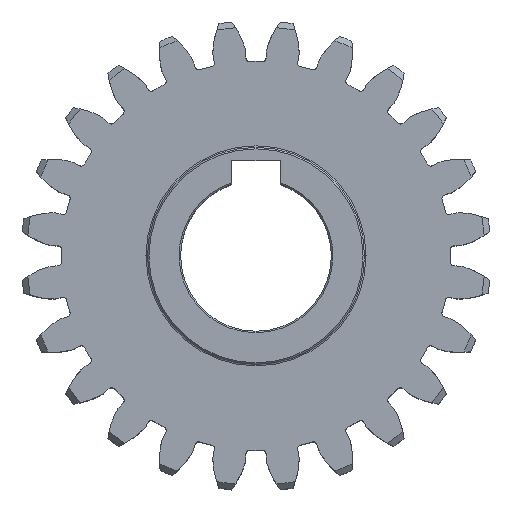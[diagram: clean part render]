
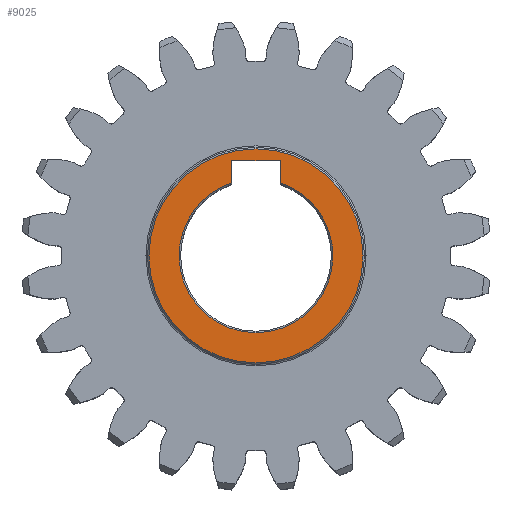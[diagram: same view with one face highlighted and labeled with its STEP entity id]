
A CAD part, top view. The second image highlights one B-rep face of the part: STEP entity #9025.
In plain terms, the highlighted planar face has unit normal (0, 0, 1).
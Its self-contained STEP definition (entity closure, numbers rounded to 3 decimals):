
#14 = CARTESIAN_POINT ( 'NONE',  ( -4., 9.2, 15. ) ) ;
#630 = CARTESIAN_POINT ( 'NONE',  ( 0., 0., 15. ) ) ;
#789 = DIRECTION ( 'NONE',  ( 1., 0., 0. ) ) ;
#1011 = AXIS2_PLACEMENT_3D ( 'NONE', #630, #3201, #789 ) ;
#1058 = FACE_OUTER_BOUND ( 'NONE', #7135, .T. ) ;
#1126 = CIRCLE ( 'NONE', #8482, 12.75 ) ;
#1210 = DIRECTION ( 'NONE',  ( 1., 0., 0. ) ) ;
#1428 = VERTEX_POINT ( 'NONE', #9603 ) ;
#1526 = AXIS2_PLACEMENT_3D ( 'NONE', #6144, #14731, #2449 ) ;
#2143 = CARTESIAN_POINT ( 'NONE',  ( 4., 15.8, 15. ) ) ;
#2225 = VERTEX_POINT ( 'NONE', #2334 ) ;
#2334 = CARTESIAN_POINT ( 'NONE',  ( 4., 15.8, 15. ) ) ;
#2343 = CARTESIAN_POINT ( 'NONE',  ( 0., 0., 15. ) ) ;
#2449 = DIRECTION ( 'NONE',  ( 1., 0., 0. ) ) ;
#2522 = EDGE_CURVE ( 'NONE', #2225, #10337, #9140, .T. ) ;
#3118 = CIRCLE ( 'NONE', #7233, 12.75 ) ;
#3201 = DIRECTION ( 'NONE',  ( 0., 0., 1. ) ) ;
#3231 = EDGE_LOOP ( 'NONE', ( #5885, #15802, #10779, #9462, #9413, #12460 ) ) ;
#3553 = VERTEX_POINT ( 'NONE', #15411 ) ;
#3599 = ORIENTED_EDGE ( 'NONE', *, *, #11899, .T. ) ;
#4651 = VERTEX_POINT ( 'NONE', #11701 ) ;
#4654 = VERTEX_POINT ( 'NONE', #12026 ) ;
#4806 = LINE ( 'NONE', #2143, #12512 ) ;
#4937 = DIRECTION ( 'NONE',  ( 0., 0., -1. ) ) ;
#4999 = DIRECTION ( 'NONE',  ( 0., 1., 0. ) ) ;
#5204 = DIRECTION ( 'NONE',  ( 1., 0., 0. ) ) ;
#5424 = AXIS2_PLACEMENT_3D ( 'NONE', #2343, #6038, #1210 ) ;
#5885 = ORIENTED_EDGE ( 'NONE', *, *, #2522, .T. ) ;
#6038 = DIRECTION ( 'NONE',  ( 0., 0., 1. ) ) ;
#6144 = CARTESIAN_POINT ( 'NONE',  ( 0., 0., 15. ) ) ;
#6265 = VERTEX_POINT ( 'NONE', #11708 ) ;
#6368 = CARTESIAN_POINT ( 'NONE',  ( 0., 0., 15. ) ) ;
#6754 = EDGE_CURVE ( 'NONE', #6265, #4654, #13662, .T. ) ;
#6945 = AXIS2_PLACEMENT_3D ( 'NONE', #11377, #10244, #5204 ) ;
#7135 = EDGE_LOOP ( 'NONE', ( #7281, #3599 ) ) ;
#7233 = AXIS2_PLACEMENT_3D ( 'NONE', #6368, #4937, #10051 ) ;
#7281 = ORIENTED_EDGE ( 'NONE', *, *, #14133, .T. ) ;
#7292 = DIRECTION ( 'NONE',  ( 1., 0., 0. ) ) ;
#8303 = VECTOR ( 'NONE', #4999, 1000. ) ;
#8482 = AXIS2_PLACEMENT_3D ( 'NONE', #13419, #8761, #14702 ) ;
#8761 = DIRECTION ( 'NONE',  ( 0., 0., -1. ) ) ;
#9025 = ADVANCED_FACE ( 'NONE', ( #1058, #10856 ), #13343, .T. ) ;
#9140 = LINE ( 'NONE', #15088, #9694 ) ;
#9308 = EDGE_CURVE ( 'NONE', #1428, #11000, #3118, .T. ) ;
#9413 = ORIENTED_EDGE ( 'NONE', *, *, #6754, .T. ) ;
#9462 = ORIENTED_EDGE ( 'NONE', *, *, #9504, .T. ) ;
#9504 = EDGE_CURVE ( 'NONE', #11000, #6265, #1126, .T. ) ;
#9603 = CARTESIAN_POINT ( 'NONE',  ( 12.75, 0., 15. ) ) ;
#9694 = VECTOR ( 'NONE', #14037, 1000. ) ;
#10004 = CIRCLE ( 'NONE', #6945, 12.75 ) ;
#10051 = DIRECTION ( 'NONE',  ( 1., 0., 0. ) ) ;
#10145 = CARTESIAN_POINT ( 'NONE',  ( -12.75, 0., 15. ) ) ;
#10165 = EDGE_CURVE ( 'NONE', #10337, #1428, #10004, .T. ) ;
#10244 = DIRECTION ( 'NONE',  ( 0., 0., -1. ) ) ;
#10337 = VERTEX_POINT ( 'NONE', #14723 ) ;
#10779 = ORIENTED_EDGE ( 'NONE', *, *, #9308, .T. ) ;
#10856 = FACE_BOUND ( 'NONE', #3231, .T. ) ;
#11000 = VERTEX_POINT ( 'NONE', #10145 ) ;
#11377 = CARTESIAN_POINT ( 'NONE',  ( 0., 0., 15. ) ) ;
#11701 = CARTESIAN_POINT ( 'NONE',  ( -17.75, 0., 15. ) ) ;
#11708 = CARTESIAN_POINT ( 'NONE',  ( -4., 12.106, 15. ) ) ;
#11899 = EDGE_CURVE ( 'NONE', #3553, #4651, #14871, .T. ) ;
#12026 = CARTESIAN_POINT ( 'NONE',  ( -4., 15.8, 15. ) ) ;
#12460 = ORIENTED_EDGE ( 'NONE', *, *, #15026, .T. ) ;
#12512 = VECTOR ( 'NONE', #7292, 1000. ) ;
#12813 = CIRCLE ( 'NONE', #1011, 17.75 ) ;
#13343 = PLANE ( 'NONE',  #5424 ) ;
#13419 = CARTESIAN_POINT ( 'NONE',  ( 0., 0., 15. ) ) ;
#13662 = LINE ( 'NONE', #14, #8303 ) ;
#14037 = DIRECTION ( 'NONE',  ( 0., -1., 0. ) ) ;
#14133 = EDGE_CURVE ( 'NONE', #4651, #3553, #12813, .T. ) ;
#14702 = DIRECTION ( 'NONE',  ( 1., 0., 0. ) ) ;
#14723 = CARTESIAN_POINT ( 'NONE',  ( 4., 12.106, 15. ) ) ;
#14731 = DIRECTION ( 'NONE',  ( 0., 0., 1. ) ) ;
#14871 = CIRCLE ( 'NONE', #1526, 17.75 ) ;
#15026 = EDGE_CURVE ( 'NONE', #4654, #2225, #4806, .T. ) ;
#15088 = CARTESIAN_POINT ( 'NONE',  ( 4., 9.2, 15. ) ) ;
#15411 = CARTESIAN_POINT ( 'NONE',  ( 17.75, 0., 15. ) ) ;
#15802 = ORIENTED_EDGE ( 'NONE', *, *, #10165, .T. ) ;
